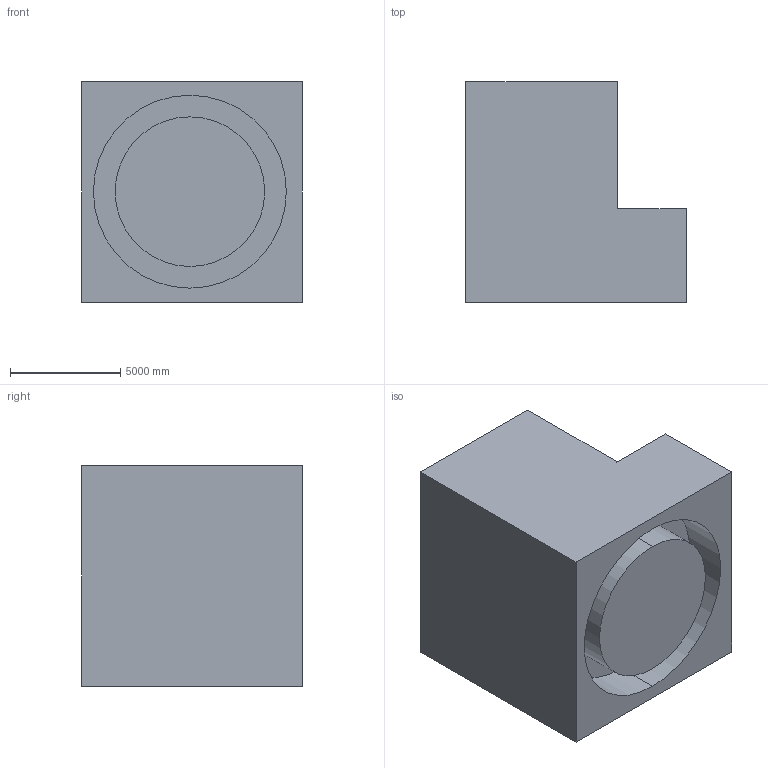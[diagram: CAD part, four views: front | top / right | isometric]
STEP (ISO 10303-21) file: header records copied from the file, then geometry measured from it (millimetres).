
FILE_DESCRIPTION (( 'STEP AP203' ), '1' );
FILE_NAME ('1061.STEP', '2022-08-18T12:36:30', ( 'user' ), ( '' ), 'SwSTEP 2.0', 'SolidWorks 2021', '' );
FILE_SCHEMA (( 'CONFIG_CONTROL_DESIGN' ));
Length unit declared in the file: centimetre
Products named in the file (1): 1061
Bounding box: 10000 x 10000 x 10000 mm (x, y, z)
Volume: 675441817583.1 mm3; surface area: 672780765.4 mm2
Topology: 1 solids, 1 shells, 15 faces, 33 edges, 22 vertices
Faces by surface type: plane 11, cylinder 4
Entity records: 492 total; most frequent: DIRECTION 73, CARTESIAN_POINT 71, ORIENTED_EDGE 66, EDGE_CURVE 33, LINE 25, VECTOR 25, AXIS2_PLACEMENT_3D 24, VERTEX_POINT 22
